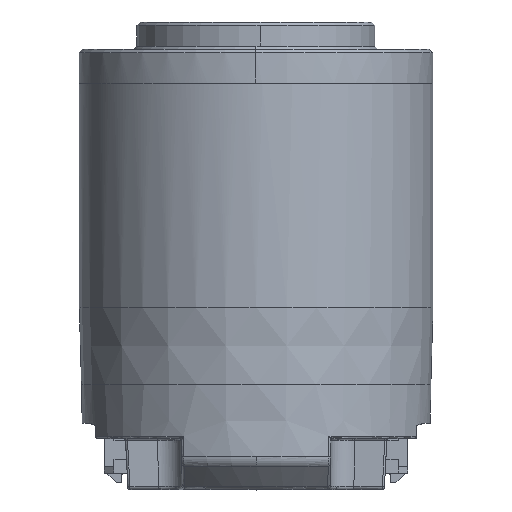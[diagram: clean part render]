
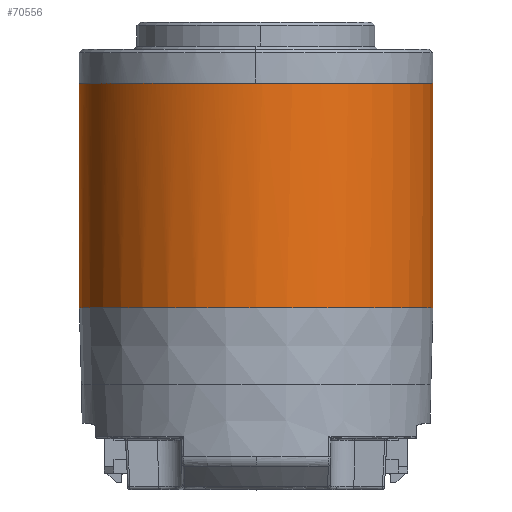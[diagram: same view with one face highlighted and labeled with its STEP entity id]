
A CAD part, top view. The second image highlights one B-rep face of the part: STEP entity #70556.
In plain terms, the highlighted cylindrical face has radius 26 mm (diameter 52 mm), a partial arc.
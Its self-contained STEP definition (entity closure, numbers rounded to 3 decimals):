
#1371 = EDGE_CURVE ( 'NONE', #46523, #78782, #77355, .T. ) ;
#5350 = DIRECTION ( 'NONE',  ( -1., 0., 0. ) ) ;
#10797 = DIRECTION ( 'NONE',  ( 1., 0., 0. ) ) ;
#15419 = ORIENTED_EDGE ( 'NONE', *, *, #24791, .T. ) ;
#16085 = LINE ( 'NONE', #101776, #36833 ) ;
#20526 = CARTESIAN_POINT ( 'NONE',  ( 0., 38.759, 0. ) ) ;
#24464 = DIRECTION ( 'NONE',  ( -1., 0., 0. ) ) ;
#24791 = EDGE_CURVE ( 'NONE', #37780, #85528, #107383, .T. ) ;
#25725 = LINE ( 'NONE', #29085, #32605 ) ;
#29085 = CARTESIAN_POINT ( 'NONE',  ( -26., 34.759, 0. ) ) ;
#30602 = ORIENTED_EDGE ( 'NONE', *, *, #1371, .T. ) ;
#31245 = VERTEX_POINT ( 'NONE', #44583 ) ;
#32605 = VECTOR ( 'NONE', #81205, 1000. ) ;
#36833 = VECTOR ( 'NONE', #83014, 1000. ) ;
#37780 = VERTEX_POINT ( 'NONE', #41336 ) ;
#40593 = ORIENTED_EDGE ( 'NONE', *, *, #89676, .F. ) ;
#41336 = CARTESIAN_POINT ( 'NONE',  ( 26., 71.759, 0. ) ) ;
#43292 = CYLINDRICAL_SURFACE ( 'NONE', #111435, 26. ) ;
#44170 = EDGE_LOOP ( 'NONE', ( #30602, #88633, #15419, #100142, #40593 ) ) ;
#44583 = CARTESIAN_POINT ( 'NONE',  ( -26., 71.759, 0. ) ) ;
#46523 = VERTEX_POINT ( 'NONE', #57300 ) ;
#53291 = DIRECTION ( 'NONE',  ( 0., -1., 0. ) ) ;
#57300 = CARTESIAN_POINT ( 'NONE',  ( -26., 38.759, 0. ) ) ;
#58426 = FACE_OUTER_BOUND ( 'NONE', #44170, .T. ) ;
#59771 = EDGE_CURVE ( 'NONE', #85528, #31245, #95033, .T. ) ;
#67565 = DIRECTION ( 'NONE',  ( 0., 1., 0. ) ) ;
#70415 = CARTESIAN_POINT ( 'NONE',  ( 26., 38.759, 0. ) ) ;
#70556 = ADVANCED_FACE ( 'NONE', ( #58426 ), #43292, .T. ) ;
#73787 = DIRECTION ( 'NONE',  ( 0., 1., 0. ) ) ;
#75158 = CARTESIAN_POINT ( 'NONE',  ( 0.878, 71.759, 25.985 ) ) ;
#77004 = DIRECTION ( 'NONE',  ( 0., -1., 0. ) ) ;
#77355 = CIRCLE ( 'NONE', #79830, 26. ) ;
#78782 = VERTEX_POINT ( 'NONE', #70415 ) ;
#79830 = AXIS2_PLACEMENT_3D ( 'NONE', #20526, #73787, #10797 ) ;
#81205 = DIRECTION ( 'NONE',  ( 0., 1., 0. ) ) ;
#81453 = DIRECTION ( 'NONE',  ( -1., 0., 0. ) ) ;
#83014 = DIRECTION ( 'NONE',  ( 0., 1., 0. ) ) ;
#85528 = VERTEX_POINT ( 'NONE', #75158 ) ;
#88390 = CARTESIAN_POINT ( 'NONE',  ( 0., 71.759, 0. ) ) ;
#88633 = ORIENTED_EDGE ( 'NONE', *, *, #104160, .T. ) ;
#89676 = EDGE_CURVE ( 'NONE', #46523, #31245, #25725, .T. ) ;
#94328 = CARTESIAN_POINT ( 'NONE',  ( 0., 71.759, 0. ) ) ;
#95033 = CIRCLE ( 'NONE', #104246, 26. ) ;
#100142 = ORIENTED_EDGE ( 'NONE', *, *, #59771, .T. ) ;
#101324 = AXIS2_PLACEMENT_3D ( 'NONE', #94328, #77004, #24464 ) ;
#101776 = CARTESIAN_POINT ( 'NONE',  ( 26., 34.759, 0. ) ) ;
#104160 = EDGE_CURVE ( 'NONE', #78782, #37780, #16085, .T. ) ;
#104246 = AXIS2_PLACEMENT_3D ( 'NONE', #88390, #53291, #81453 ) ;
#107383 = CIRCLE ( 'NONE', #101324, 26. ) ;
#111032 = CARTESIAN_POINT ( 'NONE',  ( 0., 34.759, 0. ) ) ;
#111435 = AXIS2_PLACEMENT_3D ( 'NONE', #111032, #67565, #5350 ) ;
